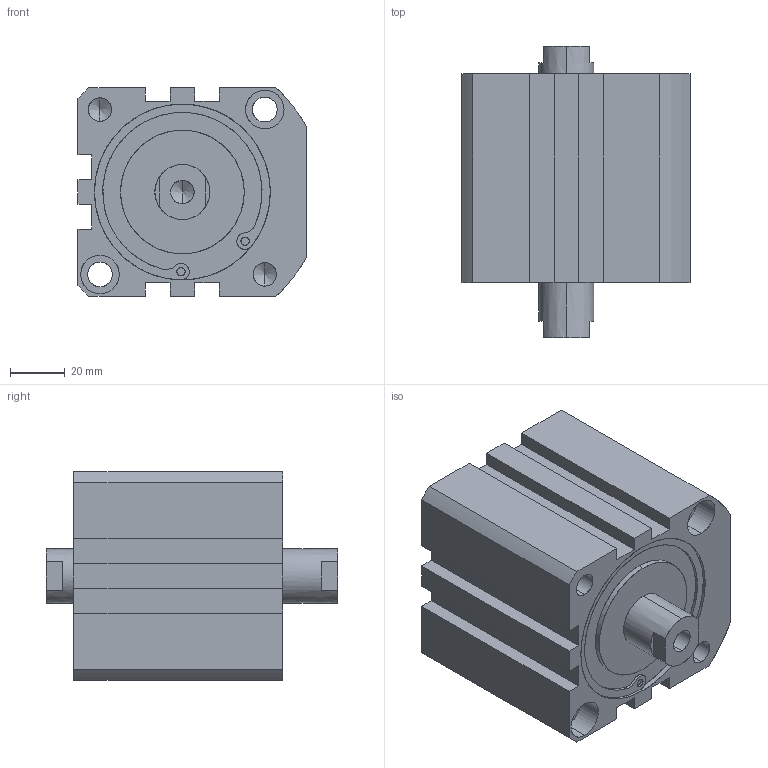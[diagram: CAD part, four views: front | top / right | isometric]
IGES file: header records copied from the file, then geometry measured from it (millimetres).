
Start section: SolidWorks IGES file using analytic representation for surfaces
Global section: file name: C:\Users\Toshiba\Desktop\XG#7-63D-10.IGS; native system: SolidWorks 2014; preprocessor: SolidWorks 2014; author: Toshiba; date: 160524.100031; units: millimetre
Bounding box: 83 x 106 x 76 mm (x, y, z)
Surface area: 51964.9 mm2 (no closed solid volume)
Topology: 0 solids, 0 shells, 145 faces, 2650 edges, 2634 vertices
Faces by surface type: revolution 89, bspline 56
